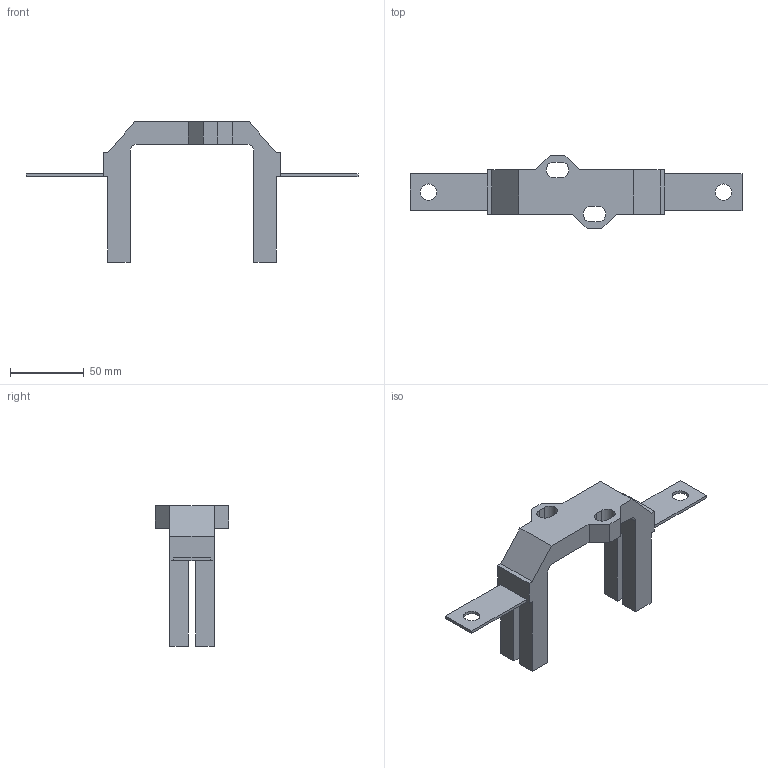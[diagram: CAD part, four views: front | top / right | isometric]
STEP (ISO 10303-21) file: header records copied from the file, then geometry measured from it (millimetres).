
FILE_DESCRIPTION (( 'STEP AP214' ), '1' );
FILE_NAME ('ﾎ魵瑙韃 ﾏﾏﾍ-2-ﾈ2-ﾓﾕﾋ3-ﾊﾝﾀﾇ.STEP', '2023-05-25T07:10:44', ( '' ), ( '' ), 'SwSTEP 2.0', 'SolidWorks 2018', '' );
FILE_SCHEMA (( 'AUTOMOTIVE_DESIGN' ));
Length unit declared in the file: millimetre
Products named in the file (1): ﾎ魵瑙韃 ﾏﾏﾍ-2-ﾈ2-ﾓﾕﾋ3-ﾊﾝﾀﾇ
Bounding box: 225 x 50 x 95 mm (x, y, z)
Volume: 113346.2 mm3; surface area: 34112.2 mm2
Topology: 1 solids, 1 shells, 58 faces, 168 edges, 112 vertices
Faces by surface type: plane 46, cylinder 12
Entity records: 1946 total; most frequent: CARTESIAN_POINT 339, ORIENTED_EDGE 336, DIRECTION 310, EDGE_CURVE 168, VECTOR 144, LINE 144, VERTEX_POINT 112, AXIS2_PLACEMENT_3D 83
